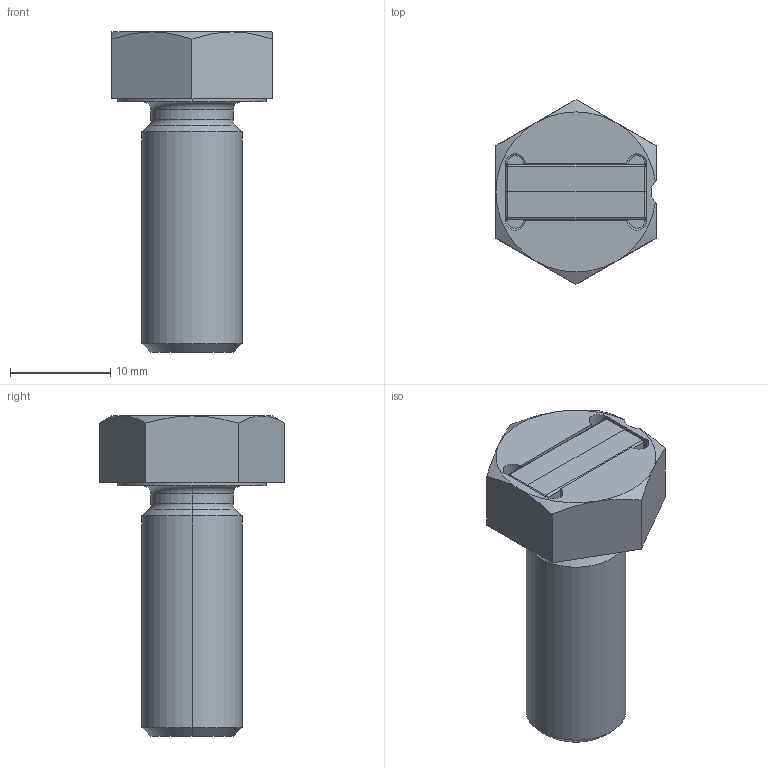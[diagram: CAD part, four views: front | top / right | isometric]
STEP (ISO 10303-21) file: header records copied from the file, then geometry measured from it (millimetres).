
FILE_DESCRIPTION (( 'STEP AP214' ), '1' );
FILE_NAME ('900077145_000.STEP', '2017-10-20T07:16:50', ( 'dummy' ), ( 'Microsoft' ), 'SwSTEP 2.0', 'SolidWorks 2017', '' );
FILE_SCHEMA (( 'AUTOMOTIVE_DESIGN' ));
Length unit declared in the file: millimetre
Products named in the file (3): 900077145_000; 900076949_000; 900003851_001
Assembly tree (2 placements, depth 2):
  900077145_000
    900076949_000
    900003851_001
Bounding box: 16 x 18.48 x 32 mm (x, y, z)
Volume: 3363.9 mm3; surface area: 2249.3 mm2
Topology: 3 solids, 3 shells, 87 faces, 193 edges, 107 vertices
Faces by surface type: cylinder 31, plane 28, torus 10, cone 10, sphere 8
Entity records: 2912 total; most frequent: CARTESIAN_POINT 486, DIRECTION 433, ORIENTED_EDGE 370, EDGE_CURVE 185, AXIS2_PLACEMENT_3D 174, VERTEX_POINT 107, EDGE_LOOP 90, FACE_OUTER_BOUND 87
